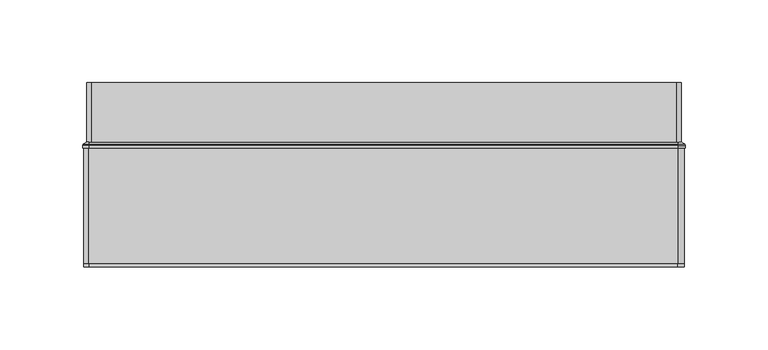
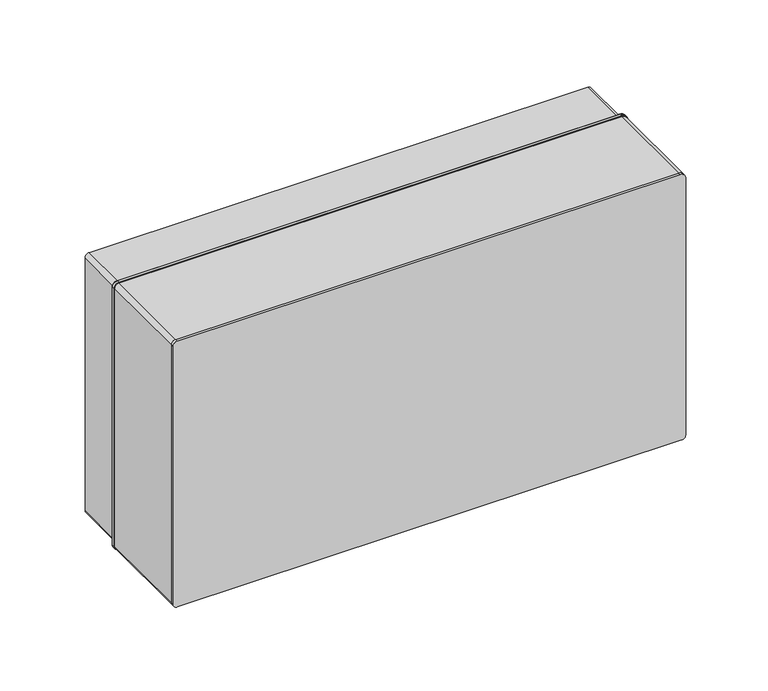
"""IFC4 building model written with IfcOpenShell, lengths in millimetres: proxy geometry, ЩРН-П-18_24_IP65 : ЩРН-П-18_IP65."""

from ifc_helpers import new_model, si_unit, point, frame, frame_2d, origin, place, context, project, spatial, polyline, circle_curve, ellipse_curve, trimmed, segment, composite_curve, outline, extrude, source, transform, mapped, element, save
from ifc_brep_helpers import plane_surface, cylinder_surface, revolved_surface, advanced_brep


def electrical_equipment_023ecf13(model_context):
    return source(origin(), model_context, "Body", "SolidModel", [
        extrude(outline(composite_curve([segment(polyline([(97.5, 176.5), (97.5, -176.5)]), True, "CONTINUOUS"), segment(trimmed(circle_curve(frame_2d((94.5, -176.5)), 3.0), [point((97.5, -176.5))], [point((94.5, -179.5))], False, "CARTESIAN"), True, "CONTINUOUS"), segment(polyline([(94.5, -179.5), (-94.5, -179.5)]), True, "CONTINUOUS"), segment(trimmed(circle_curve(frame_2d((-94.5, -176.5)), 3.0), [point((-94.5, -179.5))], [point((-97.5, -176.5))], False, "CARTESIAN"), True, "CONTINUOUS"), segment(polyline([(-97.5, -176.5), (-97.5, 176.5)]), True, "CONTINUOUS"), segment(trimmed(circle_curve(frame_2d((-94.5, 176.5)), 3.0), [point((-97.5, 176.5))], [point((-94.5, 179.5))], False, "CARTESIAN"), True, "CONTINUOUS"), segment(polyline([(-94.5, 179.5), (94.5, 179.5)]), True, "CONTINUOUS"), segment(trimmed(circle_curve(frame_2d((94.5, 176.5)), 3.0), [point((94.5, 179.5))], [point((97.5, 176.5))], False, "CARTESIAN"), True, "CONTINUOUS")], self_intersect=False), holes=[polyline([(57.4981471, 177.5), (-57.4981471, 177.5), (-57.4981471, -177.5), (57.4981471, -177.5), (57.4981471, 177.5)])]), frame((0.0, 75.5193543, 0.0), z_axis=(0.0, 1.0, 0.0), x_axis=(0.0, 0.0, 1.0)), (0.0, 0.0, 1.0), 36.0),
        extrude(outline(polyline([(177.5, 91.5193543), (-177.5, 91.5193543), (-177.5, 111.5193543), (177.5, 111.5193543), (177.5, 91.5193543)])), frame((0.0, 0.0, -57.5), z_axis=(0.0, 0.0, 1.0), x_axis=(1.0, 0.0, 0.0)), (0.0, 0.0, 1.0), 115.0),
        extrude(outline(composite_curve([segment(trimmed(circle_curve(frame_2d((96.5, -178.5)), 3.0), [point((99.5, -178.5))], [point((96.5, -181.5))], False, "CARTESIAN"), True, "CONTINUOUS"), segment(polyline([(96.5, -181.5), (-96.5, -181.5)]), True, "CONTINUOUS"), segment(trimmed(circle_curve(frame_2d((-96.5, -178.5)), 3.0), [point((-96.5, -181.5))], [point((-99.5, -178.5))], False, "CARTESIAN"), True, "CONTINUOUS"), segment(polyline([(-99.5, -178.5), (-99.5, 178.5)]), True, "CONTINUOUS"), segment(trimmed(circle_curve(frame_2d((-96.5, 178.5)), 3.0), [point((-99.5, 178.5))], [point((-96.5, 181.5))], False, "CARTESIAN"), True, "CONTINUOUS"), segment(polyline([(-96.5, 181.5), (95.5283006, 181.5)]), True, "CONTINUOUS"), segment(trimmed(circle_curve(frame_2d((95.5283006, 177.5283006)), 3.9716994), [point((95.5283006, 181.5))], [point((99.5, 177.5283006))], False, "CARTESIAN"), True, "CONTINUOUS"), segment(polyline([(99.5, 177.5283006), (99.5, -178.5)]), True, "CONTINUOUS")], self_intersect=False)), frame((0.0, 0.0, 0.0), z_axis=(0.0, 1.0, 0.0), x_axis=(0.0, 0.0, 1.0)), (0.0, 0.0, 1.0), 2.0),
        advanced_brep(
        [(-181.9898142, 72.0, 96.507075), (-178.4776209, 72.0, 100.0192684), (-178.4776209, 73.566402, 100.0192684), (-181.9898142, 73.566402, 96.507075), (-179.4898142, 75.5193543, 96.507075), (-178.4776209, 75.5193543, 97.5192684), (-178.4776209, 72.0, 97.5192684), (-179.4898142, 72.0, 96.507075), (-181.9898142, 73.566402, -96.4754068), (-181.9898142, 72.0, -96.4754068), (-179.4898142, 72.0, -96.4754068), (-179.4898142, 75.5193543, -96.4754068), (-178.498733, 72.0, -99.966488), (-178.498733, 73.566402, -99.966488), (-178.498733, 75.5193543, -97.466488), (-178.498733, 72.0, -97.466488), (178.4496724, 73.566402, -99.966488), (178.4496724, 72.0, -99.966488), (178.4496724, 72.0, -97.466488), (178.4496724, 75.5193543, -97.466488), (182.0141503, 72.0, -96.40201), (182.0141503, 73.566402, -96.40201), (179.5141503, 75.5193543, -96.40201), (179.5141503, 72.0, -96.40201), (177.5135486, 72.0, 100.0192684), (177.5135486, 73.566402, 100.0192684), (177.5135486, 75.5193543, 97.5192684), (177.5135486, 72.0, 97.5192684), (-181.6014108, 74.2523963, 96.507075), (-178.4776209, 74.2523963, 99.630865), (-181.6014108, 74.2523963, -96.4754068), (-178.498733, 74.2523963, -99.5780846), (178.4496724, 74.2523963, -99.5780846), (181.6257469, 74.2523963, -96.40201), (177.5135486, 74.2523963, 99.630865), (179.5141503, 75.5193543, 95.5186666), (181.6257469, 74.2523963, 95.5186666), (182.0141503, 73.566402, 95.5186666), (182.0141503, 72.0, 95.5186666), (179.5141503, 72.0, 95.5186666)],
        [
            (0, 1, circle_curve(frame((-178.4776209, 72.0, 96.507075), z_axis=(0.0, 1.0, 0.0), x_axis=(0.0, 0.0, 1.0)), 3.5121934)),
            (1, 2),
            (2, 3, circle_curve(frame((-178.4776209, 73.566402, 96.507075), z_axis=(0.0, -1.0, 0.0), x_axis=(0.0, 0.0, 1.0)), 3.5121934)),
            (3, 0),
            (4, 5, circle_curve(frame((-178.4776209, 75.5193543, 96.507075), z_axis=(0.0, 1.0, 0.0), x_axis=(0.0, 0.0, 1.0)), 1.0121934)),
            (5, 6),
            (6, 7, circle_curve(frame((-178.4776209, 72.0, 96.507075), z_axis=(0.0, -1.0, 0.0), x_axis=(0.0, 0.0, 1.0)), 1.0121934)),
            (7, 4),
            (3, 8),
            (8, 9),
            (9, 0),
            (7, 10),
            (10, 11),
            (11, 4),
            (12, 9, circle_curve(frame((-178.498733, 72.0, -96.4754068), z_axis=(0.0, 1.0, 0.0), x_axis=(-1.0, 0.0, 0.0)), 3.4910812)),
            (8, 13, circle_curve(frame((-178.498733, 73.566402, -96.4754068), z_axis=(0.0, -1.0, 0.0), x_axis=(-1.0, 0.0, 0.0)), 3.4910812)),
            (13, 12),
            (14, 11, circle_curve(frame((-178.498733, 75.5193543, -96.4754068), z_axis=(0.0, 1.0, 0.0), x_axis=(-1.0, 0.0, 0.0)), 0.9910812)),
            (10, 15, circle_curve(frame((-178.498733, 72.0, -96.4754068), z_axis=(0.0, -1.0, 0.0), x_axis=(-1.0, 0.0, 0.0)), 0.9910812)),
            (15, 14),
            (13, 16),
            (16, 17),
            (17, 12),
            (15, 18),
            (18, 19),
            (19, 14),
            (20, 17, circle_curve(frame((178.4496724, 72.0, -96.40201), z_axis=(0.0, 1.0, 0.0), x_axis=(0.0, 0.0, -1.0)), 3.564478)),
            (16, 21, circle_curve(frame((178.4496724, 73.566402, -96.40201), z_axis=(0.0, -1.0, 0.0), x_axis=(0.0, 0.0, -1.0)), 3.564478)),
            (21, 20),
            (22, 19, circle_curve(frame((178.4496724, 75.5193543, -96.40201), z_axis=(0.0, 1.0, 0.0), x_axis=(0.0, 0.0, -1.0)), 1.064478)),
            (18, 23, circle_curve(frame((178.4496724, 72.0, -96.40201), z_axis=(0.0, -1.0, 0.0), x_axis=(0.0, 0.0, -1.0)), 1.064478)),
            (23, 22),
            (24, 25),
            (25, 2),
            (1, 24),
            (26, 27),
            (27, 6),
            (5, 26),
            (28, 29, circle_curve(frame((-178.4776209, 74.2523963, 96.507075), z_axis=(0.0, 1.0, 0.0), x_axis=(0.0, 0.0, 1.0)), 3.12379)),
            (29, 5),
            (4, 28),
            (2, 29, circle_curve(frame((-178.4776209, 73.566402, 99.2192684), z_axis=(-1.0, 0.0, 0.0), x_axis=(0.0, 0.0, -1.0)), 0.8)),
            (28, 3, circle_curve(frame((-181.1898142, 73.566402, 96.507075), z_axis=(0.0, 0.0, 1.0), x_axis=(1.0, 0.0, 0.0)), 0.8)),
            (11, 30),
            (30, 28),
            (30, 8, circle_curve(frame((-181.1898142, 73.566402, -96.4754068), z_axis=(0.0, 0.0, 1.0), x_axis=(1.0, 0.0, 0.0)), 0.8)),
            (31, 30, circle_curve(frame((-178.498733, 74.2523963, -96.4754068), z_axis=(0.0, 1.0, 0.0), x_axis=(-1.0, 0.0, 0.0)), 3.1026778)),
            (14, 31),
            (31, 13, circle_curve(frame((-178.498733, 73.566402, -99.166488), z_axis=(-1.0, 0.0, 0.0), x_axis=(0.0, 0.0, 1.0)), 0.8)),
            (19, 32),
            (32, 31),
            (32, 16, circle_curve(frame((178.4496724, 73.566402, -99.166488), z_axis=(-1.0, 0.0, 0.0), x_axis=(0.0, 0.0, 1.0)), 0.8)),
            (33, 32, circle_curve(frame((178.4496724, 74.2523963, -96.40201), z_axis=(0.0, 1.0, 0.0), x_axis=(0.0, 0.0, -1.0)), 3.1760746)),
            (22, 33),
            (33, 21, circle_curve(frame((181.2141503, 73.566402, -96.40201), z_axis=(0.0, 0.0, -1.0), x_axis=(-1.0, 0.0, 0.0)), 0.8)),
            (34, 26),
            (29, 34),
            (25, 34, circle_curve(frame((177.5135486, 73.566402, 99.2192684), z_axis=(-1.0, 0.0, 0.0), x_axis=(0.0, 0.0, -1.0)), 0.8)),
            (22, 35),
            (35, 36),
            (36, 33),
            (36, 37, circle_curve(frame((181.2141503, 73.566402, 95.5186666), z_axis=(0.0, 0.0, -1.0), x_axis=(-1.0, 0.0, 0.0)), 0.8)),
            (37, 21),
            (37, 38),
            (38, 20),
            (23, 39),
            (39, 35),
            (34, 36, circle_curve(frame((177.5135486, 74.2523963, 95.5186666), z_axis=(0.0, 1.0, 0.0), x_axis=(1.0, 0.0, 0.0)), 4.1121984)),
            (35, 26, circle_curve(frame((177.5135486, 75.5193543, 95.5186666), z_axis=(0.0, -1.0, 0.0), x_axis=(1.0, 0.0, 0.0)), 2.0006018)),
            (25, 37, circle_curve(frame((177.5135486, 73.566402, 95.5186666), z_axis=(0.0, 1.0, 0.0), x_axis=(1.0, 0.0, 0.0)), 4.5006018)),
            (24, 38, circle_curve(frame((177.5135486, 72.0, 95.5186666), z_axis=(0.0, 1.0, 0.0), x_axis=(1.0, 0.0, 0.0)), 4.5006018)),
            (27, 39, circle_curve(frame((177.5135486, 72.0, 95.5186666), z_axis=(0.0, 1.0, 0.0), x_axis=(1.0, 0.0, 0.0)), 2.0006018)),
        ],
        [
            cylinder_surface(frame((-178.4776209, 0.0, 96.507075), z_axis=(0.0, -1.0, 0.0), x_axis=(0.0, 0.0, 1.0)), 3.5121934),
            revolved_surface(polyline([(-178.4776209, 72.0, 97.5192684), (-178.4776209, 75.5193543, 97.5192684)]), (-178.4776209, 0.0, 96.507075), (0.0, -1.0, 0.0)),
            plane_surface(frame((-181.9898142, 73.566402, 96.507075), z_axis=(-1.0, 0.0, 0.0), x_axis=(0.0, 0.0, -1.0))),
            plane_surface(frame((-179.4898142, 72.0, 96.507075), z_axis=(1.0, 0.0, 0.0), x_axis=(0.0, 0.0, -1.0))),
            cylinder_surface(frame((-178.498733, 0.0, -96.4754068), z_axis=(0.0, -1.0, 0.0), x_axis=(-1.0, 0.0, 0.0)), 3.4910812),
            revolved_surface(polyline([(-179.48981419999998, 72.0, -96.4754068), (-179.48981419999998, 75.5193543, -96.4754068)]), (-178.498733, 0.0, -96.4754068), (0.0, -1.0, 0.0)),
            plane_surface(frame((-178.498733, 73.566402, -99.966488), z_axis=(0.0, 0.0, -1.0), x_axis=(1.0, 0.0, 0.0))),
            plane_surface(frame((-178.498733, 72.0, -97.466488), z_axis=(0.0, 0.0, 1.0), x_axis=(1.0, 0.0, 0.0))),
            cylinder_surface(frame((178.4496724, 0.0, -96.40201), z_axis=(0.0, -1.0, 0.0), x_axis=(0.0, 0.0, -1.0)), 3.564478),
            revolved_surface(polyline([(178.4496724, 72.0, -97.466488), (178.4496724, 75.5193543, -97.466488)]), (178.4496724, 0.0, -96.40201), (0.0, -1.0, 0.0)),
            plane_surface(frame((177.5135486, 73.566402, 100.0192684), z_axis=(0.0, 0.0, 1.0), x_axis=(-1.0, 0.0, 0.0))),
            plane_surface(frame((177.5135486, 72.0, 97.5192684), z_axis=(0.0, 0.0, -1.0), x_axis=(-1.0, 0.0, 0.0))),
            revolved_surface(polyline([(-178.4776209, 75.5193543, 97.5192684), (-178.4776209, 74.2523963, 99.630865)]), (-178.4776209, 0.0, 96.507075), (0.0, -1.0, 0.0)),
            revolved_surface(trimmed(ellipse_curve(frame((-178.4776209, 73.566402, 99.2192684), z_axis=(1.0, 0.0, 0.0), x_axis=(0.0, 0.0, -1.0)), 0.8, 0.8), [point((-178.4776209, 74.2523963, 99.630865))], [point((-178.4776209, 73.566402, 100.0192684))], True, "CARTESIAN"), (-178.4776209, 0.0, 96.507075), (0.0, -1.0, 0.0)),
            plane_surface(frame((-179.4898142, 75.5193543, 96.507075), z_axis=(-0.5144957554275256, 0.8574929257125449, 0.0), x_axis=(0.0, 0.0, -1.0))),
            cylinder_surface(frame((-181.1898142, 73.566402, 96.507075), z_axis=(0.0, 0.0, 1.0), x_axis=(1.0, 0.0, 0.0)), 0.8),
            revolved_surface(polyline([(-179.4898142, 75.5193543, -96.4754068), (-181.6014108, 74.2523963, -96.4754068)]), (-178.498733, 0.0, -96.4754068), (0.0, -1.0, 0.0)),
            revolved_surface(trimmed(ellipse_curve(frame((-181.1898142, 73.566402, -96.4754068), z_axis=(0.0, 0.0, 1.0), x_axis=(1.0, 0.0, 0.0)), 0.8, 0.8), [point((-181.6014108, 74.2523963, -96.4754068))], [point((-181.9898142, 73.566402, -96.4754068))], True, "CARTESIAN"), (-178.498733, 0.0, -96.4754068), (0.0, -1.0, 0.0)),
            plane_surface(frame((-178.498733, 75.5193543, -97.466488), z_axis=(0.0, 0.8574929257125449, -0.5144957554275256), x_axis=(1.0, 0.0, 0.0))),
            cylinder_surface(frame((-178.498733, 73.566402, -99.166488), z_axis=(-1.0, 0.0, 0.0), x_axis=(0.0, 0.0, 1.0)), 0.8),
            revolved_surface(polyline([(178.4496724, 75.5193543, -97.466488), (178.4496724, 74.2523963, -99.5780846)]), (178.4496724, 0.0, -96.40201), (0.0, -1.0, 0.0)),
            revolved_surface(trimmed(ellipse_curve(frame((178.4496724, 73.566402, -99.166488), z_axis=(-1.0, 0.0, 0.0), x_axis=(0.0, 0.0, 1.0)), 0.8, 0.8), [point((178.4496724, 74.2523963, -99.5780846))], [point((178.4496724, 73.566402, -99.966488))], True, "CARTESIAN"), (178.4496724, 0.0, -96.40201), (0.0, -1.0, 0.0)),
            plane_surface(frame((177.5135486, 75.5193543, 97.5192684), z_axis=(0.0, 0.8574929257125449, 0.5144957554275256), x_axis=(-1.0, 0.0, 0.0))),
            cylinder_surface(frame((177.5135486, 73.566402, 99.2192684), z_axis=(1.0, 0.0, 0.0), x_axis=(0.0, 0.0, -1.0)), 0.8),
            plane_surface(frame((179.5141503, 75.5193543, -96.40201), z_axis=(0.5144957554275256, 0.8574929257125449, 0.0), x_axis=(0.0, 0.0, 1.0))),
            cylinder_surface(frame((181.2141503, 73.566402, -96.40201), z_axis=(0.0, 0.0, -1.0), x_axis=(-1.0, 0.0, 0.0)), 0.8),
            plane_surface(frame((182.0141503, 73.566402, -96.40201), z_axis=(1.0, 0.0, 0.0), x_axis=(0.0, 0.0, 1.0))),
            plane_surface(frame((179.5141503, 72.0, -96.40201), z_axis=(-1.0, 0.0, 0.0), x_axis=(0.0, 0.0, 1.0))),
            revolved_surface(polyline([(179.5141503, 75.5193543, 95.5186666), (181.6257469, 74.2523963, 95.5186666)]), (177.5135486, 0.0, 95.5186666), (0.0, -1.0, 0.0)),
            revolved_surface(trimmed(ellipse_curve(frame((181.2141503, 73.566402, 95.5186666), z_axis=(0.0, 0.0, -1.0), x_axis=(-1.0, 0.0, 0.0)), 0.8, 0.8), [point((181.6257469, 74.2523963, 95.5186666))], [point((182.0141503, 73.566402, 95.5186666))], True, "CARTESIAN"), (177.5135486, 0.0, 95.5186666), (0.0, -1.0, 0.0)),
            cylinder_surface(frame((177.5135486, 0.0, 95.5186666), z_axis=(0.0, -1.0, 0.0), x_axis=(1.0, 0.0, 0.0)), 4.5006018),
            plane_surface(frame((177.5135486, 72.0, 95.5186666), z_axis=(0.0, -1.0, 0.0), x_axis=(1.0, 0.0, 0.0))),
            revolved_surface(polyline([(179.5141504, 72.0, 95.5186666), (179.5141504, 75.5193543, 95.5186666)]), (177.5135486, 0.0, 95.5186666), (0.0, -1.0, 0.0)),
        ],
        [
            (0, [[1, 2, 3, 4]]),
            (1, [[5, 6, 7, 8]]),
            (2, [[-4, 9, 10, 11]]),
            (3, [[-8, 12, 13, 14]]),
            (4, [[15, -10, 16, 17]]),
            (5, [[18, -13, 19, 20]]),
            (6, [[-17, 21, 22, 23]]),
            (7, [[-20, 24, 25, 26]]),
            (8, [[27, -22, 28, 29]]),
            (9, [[30, -25, 31, 32]]),
            (10, [[33, 34, -2, 35]]),
            (11, [[36, 37, -6, 38]]),
            (12, [[39, 40, -5, 41]]),
            (13, [[-3, 42, -39, 43]]),
            (14, [[-41, -14, 44, 45]]),
            (15, [[-43, -45, 46, -9]]),
            (16, [[47, -44, -18, 48]]),
            (17, [[-16, -46, -47, 49]]),
            (18, [[-48, -26, 50, 51]]),
            (19, [[-49, -51, 52, -21]]),
            (20, [[53, -50, -30, 54]]),
            (21, [[-28, -52, -53, 55]]),
            (22, [[56, -38, -40, 57]]),
            (23, [[58, -57, -42, -34]]),
            (24, [[-54, 59, 60, 61]]),
            (25, [[-55, -61, 62, 63]]),
            (26, [[-29, -63, 64, 65]]),
            (27, [[-32, 66, 67, -59]]),
            (28, [[68, -60, 69, -56]]),
            (29, [[70, -62, -68, -58]]),
            (30, [[71, -64, -70, -33]]),
            (31, [[-27, -65, -71, -35, -1, -11, -15, -23], [72, -66, -31, -24, -19, -12, -7, -37]]),
            (32, [[-69, -67, -72, -36]]),
        ],
    ),
        extrude(outline(composite_curve([segment(polyline([(99.5, 177.5283006), (99.5, -178.5)]), True, "CONTINUOUS"), segment(trimmed(circle_curve(frame_2d((96.5, -178.5)), 3.0), [point((99.5, -178.5))], [point((96.5, -181.5))], False, "CARTESIAN"), True, "CONTINUOUS"), segment(polyline([(96.5, -181.5), (-96.5, -181.5)]), True, "CONTINUOUS"), segment(trimmed(circle_curve(frame_2d((-96.5, -178.5)), 3.0), [point((-96.5, -181.5))], [point((-99.5, -178.5))], False, "CARTESIAN"), True, "CONTINUOUS"), segment(polyline([(-99.5, -178.5), (-99.5, 178.5)]), True, "CONTINUOUS"), segment(trimmed(circle_curve(frame_2d((-96.5, 178.5)), 3.0), [point((-99.5, 178.5))], [point((-96.5, 181.5))], False, "CARTESIAN"), True, "CONTINUOUS"), segment(polyline([(-96.5, 181.5), (95.5283006, 181.5)]), True, "CONTINUOUS"), segment(trimmed(circle_curve(frame_2d((95.5283006, 177.5283006)), 3.9716994), [point((95.5283006, 181.5))], [point((99.5, 177.5283006))], False, "CARTESIAN"), True, "CONTINUOUS")], self_intersect=False)), frame((0.0, 2.0, 0.0), z_axis=(0.0, 1.0, 0.0), x_axis=(0.0, 0.0, 1.0)), (0.0, 0.0, 1.0), 70.0),
    ])


if __name__ == "__main__":
    model = new_model("IFC4")
    model_context = context("Model", 3, world=origin())
    ifc_project = project(units=[si_unit("LENGTHUNIT", "METRE", prefix="MILLI")], contexts=[model_context])
    site = spatial("IfcSite", under=ifc_project)
    building = spatial("IfcBuilding", under=site)
    placement = place(None, origin())
    electrical_equipment_shape = electrical_equipment_023ecf13(model_context)
    element("IfcBuildingElementProxy", 1, Name="ЩРН-П-18_24_IP65 : ЩРН-П-18_IP65", ObjectType="ЩРН-П-18_24_IP65 : ЩРН-П-18_IP65", at=placement, inside=building, context=model_context, shape_type="MappedRepresentation", body=[
        mapped(electrical_equipment_shape, transform((0.0, 0.0, 0.0), x_axis=(1.0, 0.0, 0.0), y_axis=(0.0, 1.0, 0.0), z_axis=(0.0, 0.0, 1.0))),
    ])
    save(model, "model.ifc")
